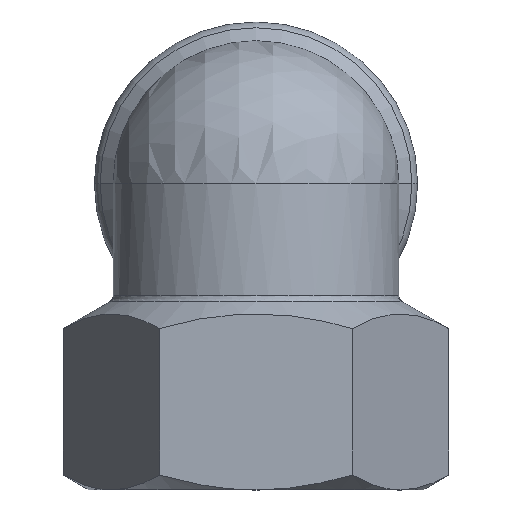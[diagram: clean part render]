
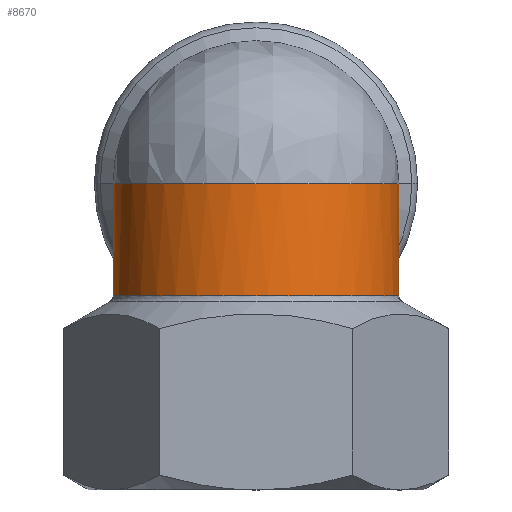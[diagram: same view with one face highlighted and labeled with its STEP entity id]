
A CAD part, left-side view. The second image highlights one B-rep face of the part: STEP entity #8670.
In plain terms, the highlighted cylindrical face has radius 19.7 mm (diameter 39.4 mm), a partial arc.
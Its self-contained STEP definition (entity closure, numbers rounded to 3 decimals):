
#8290=CARTESIAN_POINT('',(38.369,-136.953,26.2));
#8300=DIRECTION('',(0.,0.,1.));
#8310=DIRECTION('',(1.,0.,0.));
#8320=AXIS2_PLACEMENT_3D('',#8290,#8300,#8310);
#8330=CYLINDRICAL_SURFACE('',#8320,19.7);
#8340=CARTESIAN_POINT('',(38.369,-136.953,42.2));
#8350=DIRECTION('',(0.,0.,-1.));
#8360=DIRECTION('',(1.,-0.,0.));
#8370=AXIS2_PLACEMENT_3D('',#8340,#8350,#8360);
#8380=CIRCLE('',#8370,19.7);
#8390=CARTESIAN_POINT('',(38.369,-156.653,42.2));
#8400=VERTEX_POINT('',#8390);
#8410=CARTESIAN_POINT('',(38.369,-117.253,42.2));
#8420=VERTEX_POINT('',#8410);
#8430=EDGE_CURVE('',#8400,#8420,#8380,.T.);
#8440=ORIENTED_EDGE('',*,*,#8430,.T.);
#8450=CARTESIAN_POINT('',(38.369,-136.953,42.2));
#8460=DIRECTION('',(0.707,0.,
0.707));
#8470=DIRECTION('',(-0.707,0.,
0.707));
#8480=AXIS2_PLACEMENT_3D('',#8450,#8460,#8470);
#8490=ELLIPSE('',#8480,27.86,19.7);
#8500=CARTESIAN_POINT('',(53.792,-149.21,
26.777));
#8510=VERTEX_POINT('',#8500);
#8520=EDGE_CURVE('',#8400,#8510,#8490,.T.);
#8530=ORIENTED_EDGE('',*,*,#8520,.F.);
#8540=CARTESIAN_POINT('',(38.369,-136.953,26.777));
#8550=DIRECTION('',(0.,0.,-1.));
#8560=DIRECTION('',(-1.,0.,0.));
#8570=AXIS2_PLACEMENT_3D('',#8540,#8550,#8560);
#8580=CIRCLE('',#8570,19.7);
#8590=CARTESIAN_POINT('',(53.792,-124.696,
26.777));
#8600=VERTEX_POINT('',#8590);
#8610=EDGE_CURVE('',#8510,#8600,#8580,.T.);
#8620=ORIENTED_EDGE('',*,*,#8610,.F.);
#8630=EDGE_CURVE('',#8600,#8420,#8490,.T.);
#8640=ORIENTED_EDGE('',*,*,#8630,.F.);
#8650=EDGE_LOOP('',(#8640,#8620,#8530,#8440));
#8660=FACE_OUTER_BOUND('',#8650,.T.);
#8670=ADVANCED_FACE('',(#8660),#8330,.T.);
